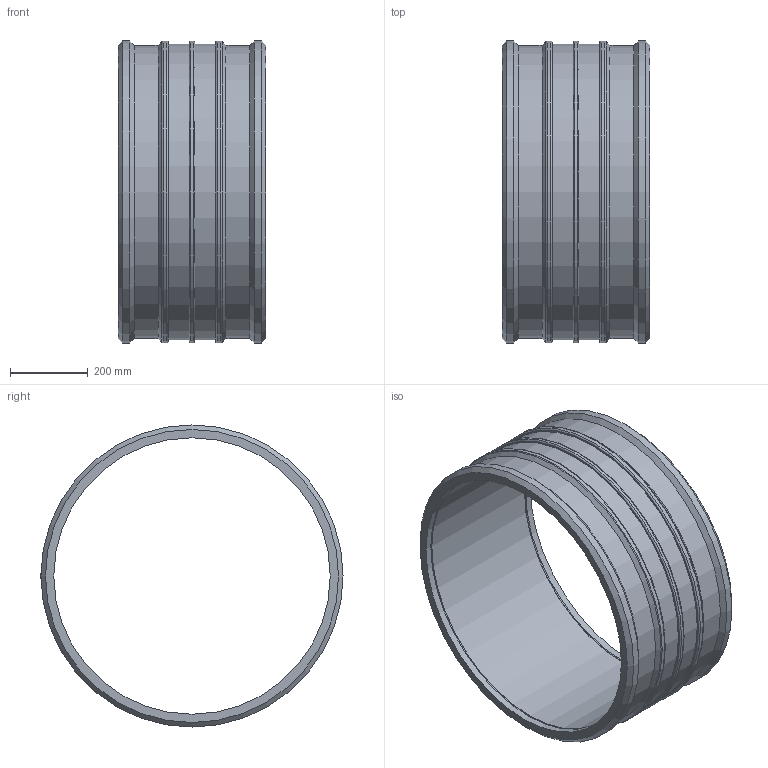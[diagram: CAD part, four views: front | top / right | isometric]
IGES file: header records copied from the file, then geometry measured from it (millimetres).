
Global section: file name: 4601S3710.ipt; native system: Autodesk Inventor 2015; preprocessor: unknown; author: KIM; date: 20190627.094249; units: millimetre
Bounding box: 380 x 776 x 776 mm (x, y, z)
Volume: 22663840.4 mm3; surface area: 1986023.6 mm2
Topology: 1 solids, 1 shells, 48 faces, 106 edges, 70 vertices
Faces by surface type: cylinder 15, plane 14, revolution 13, cone 6
Full cylindrical faces by diameter (mm): 4 x2, 752.72 x2, 759.5 x2, 775 x3, 776 x2
